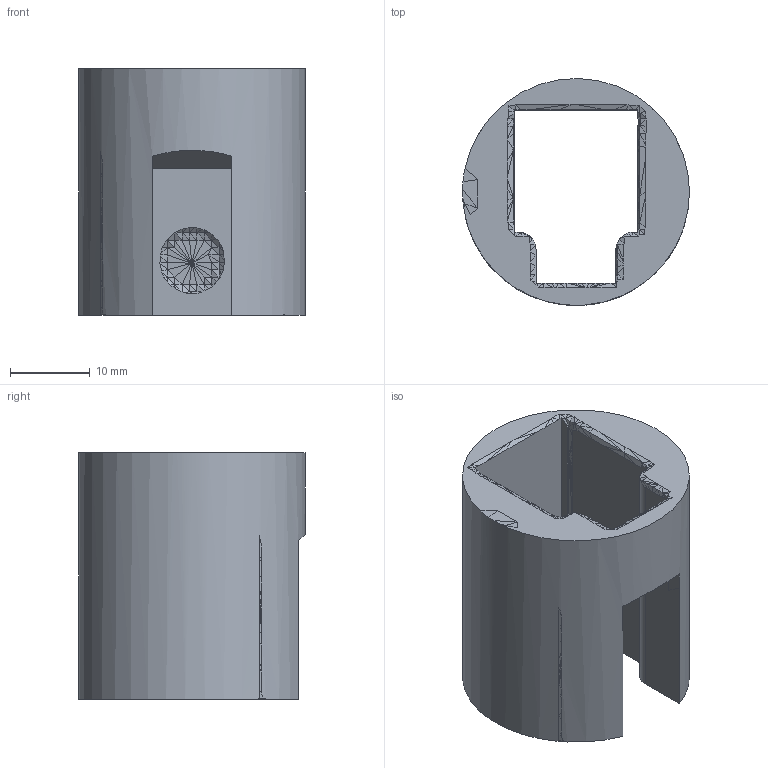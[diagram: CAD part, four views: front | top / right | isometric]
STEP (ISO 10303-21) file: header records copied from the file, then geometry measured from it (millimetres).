
FILE_DESCRIPTION(/* description */ (''),/* implementation_level */ '2;1');
FILE_NAME(/* name */ 'C:/Users/chadm/OneDrive/Documents/3D Printing/~Others/FGC-9/AdaptToShuty/FGC_GlonkBrrlAdapt/ReceiverInset_Glockadapted.step',/* time_stamp */ '2020-05-14T14:20:24-05:00',/* author */ (''),/* organization */ (''),/* preprocessor_version */ 'ST-DEVELOPER v18.1',/* originating_system */ 'Autodesk Translation Framework v9.3.0.1241',/* authorisation */ '');
FILE_SCHEMA (('AUTOMOTIVE_DESIGN { 1 0 10303 214 3 1 1 }'));
Length unit declared in the file: millimetre
Products named in the file (1): FusionComponent
Bounding box: 28.4 x 28.39 x 30.86 mm (x, y, z)
Volume: 9652.4 mm3; surface area: 5329.2 mm2
Topology: 1 solids, 1 shells, 457 faces, 1025 edges, 571 vertices
Faces by surface type: plane 454, cylinder 3
Full cylindrical faces by diameter (mm): 28.4 x1
Entity records: 12064 total; most frequent: CARTESIAN_POINT 2062, ORIENTED_EDGE 2050, DIRECTION 1985, EDGE_CURVE 1025, LINE 973, VECTOR 973, VERTEX_POINT 571, AXIS2_PLACEMENT_3D 506
